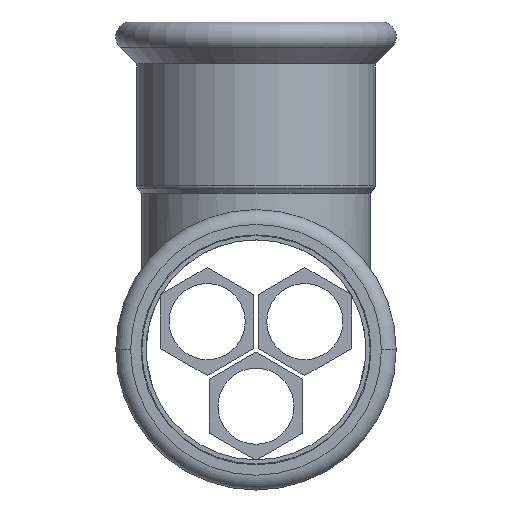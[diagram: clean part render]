
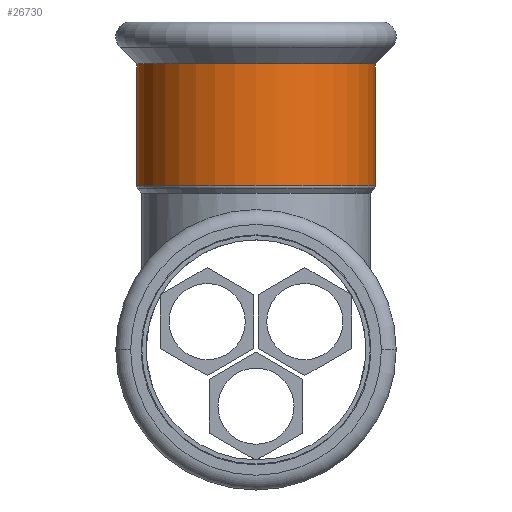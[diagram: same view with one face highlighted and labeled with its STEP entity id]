
A CAD part, left-side view. The second image highlights one B-rep face of the part: STEP entity #26730.
In plain terms, the highlighted cylindrical face has radius 56.35 mm (diameter 112.7 mm), a partial arc.
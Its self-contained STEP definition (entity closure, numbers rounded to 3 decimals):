
#26180=CARTESIAN_POINT('',(-71.,56.35,135.151));
#26190=VERTEX_POINT('',#26180);
#26270=CARTESIAN_POINT('',(-71.,-56.35,135.151));
#26280=VERTEX_POINT('',#26270);
#26310=CARTESIAN_POINT('',(-71.,0.,
135.151));
#26320=DIRECTION('',(0.,0.,1.));
#26330=DIRECTION('',(0.,-1.,0.));
#26340=AXIS2_PLACEMENT_3D('',#26310,#26320,#26330);
#26350=CIRCLE('',#26340,56.35);
#26410=CARTESIAN_POINT('',(-71.,0.,
115.19));
#26420=DIRECTION('',(0.,0.,-1.));
#26430=DIRECTION('',(0.,-1.,0.));
#26440=AXIS2_PLACEMENT_3D('',#26410,#26420,#26430);
#26450=CYLINDRICAL_SURFACE('',#26440,56.35);
#26460=CARTESIAN_POINT('',(-71.,-56.35,115.19));
#26470=DIRECTION('',(0.,0.,-1.));
#26480=VECTOR('',#26470,1.);
#26490=LINE('',#26460,#26480);
#26500=CARTESIAN_POINT('',(-71.,-56.35,77.529));
#26510=VERTEX_POINT('',#26500);
#26520=EDGE_CURVE('',#26280,#26510,#26490,.T.);
#26530=ORIENTED_EDGE('',*,*,#26520,.T.);
#26540=EDGE_CURVE('',#26280,#26190,#26350,.T.);
#26550=ORIENTED_EDGE('',*,*,#26540,.F.);
#26560=CARTESIAN_POINT('',(-71.,56.35,115.19));
#26570=DIRECTION('',(0.,0.,-1.));
#26580=VECTOR('',#26570,1.);
#26590=LINE('',#26560,#26580);
#26600=CARTESIAN_POINT('',(-71.,56.35,77.529));
#26610=VERTEX_POINT('',#26600);
#26620=EDGE_CURVE('',#26190,#26610,#26590,.T.);
#26630=ORIENTED_EDGE('',*,*,#26620,.F.);
#26640=CARTESIAN_POINT('',(-71.,0.,
77.529));
#26650=DIRECTION('',(0.,0.,-1.));
#26660=DIRECTION('',(0.,-1.,0.));
#26670=AXIS2_PLACEMENT_3D('',#26640,#26650,#26660);
#26680=CIRCLE('',#26670,56.35);
#26690=EDGE_CURVE('',#26610,#26510,#26680,.T.);
#26700=ORIENTED_EDGE('',*,*,#26690,.F.);
#26710=EDGE_LOOP('',(#26700,#26630,#26550,#26530));
#26720=FACE_OUTER_BOUND('',#26710,.T.);
#26730=ADVANCED_FACE('',(#26720),#26450,.T.);
